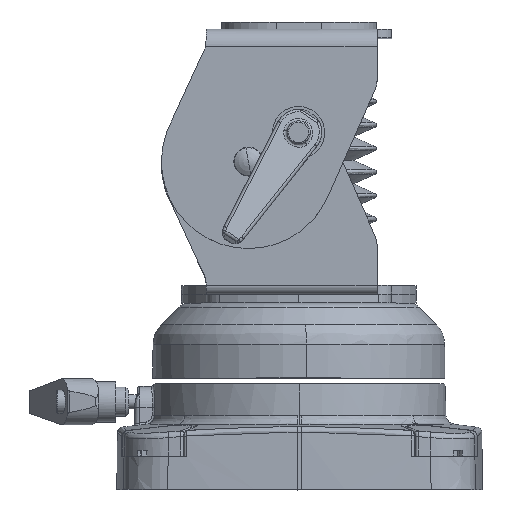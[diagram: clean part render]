
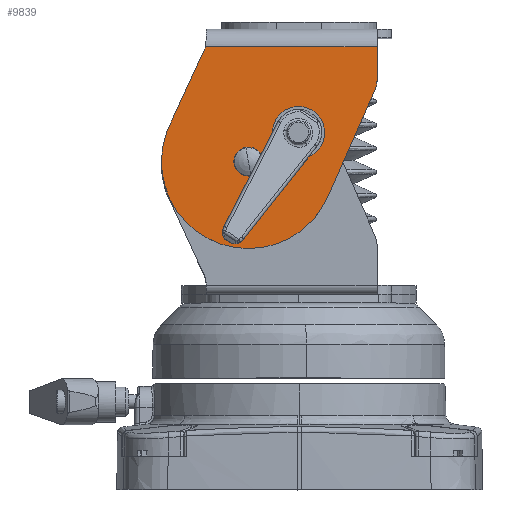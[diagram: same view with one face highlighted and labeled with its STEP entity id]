
A CAD part, top view. The second image highlights one B-rep face of the part: STEP entity #9839.
In plain terms, the highlighted planar face has unit normal (0, 0, 1) as drawn and (1, 0, 0) by its records, which use the part's own axes.
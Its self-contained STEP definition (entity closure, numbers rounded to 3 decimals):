
#251 = CARTESIAN_POINT ( 'NONE',  ( 979.936, 510.484, -42.501 ) ) ;
#953 = VERTEX_POINT ( 'NONE', #98935 ) ;
#4266 = CARTESIAN_POINT ( 'NONE',  ( 979.936, 534.605, -58.093 ) ) ;
#5188 = CARTESIAN_POINT ( 'NONE',  ( 979.936, 504.084, -42.501 ) ) ;
#6599 = VECTOR ( 'NONE', #135289, 1000. ) ;
#6761 = DIRECTION ( 'NONE',  ( 0., -1., 0. ) ) ;
#6844 = VERTEX_POINT ( 'NONE', #156714 ) ;
#8865 = CARTESIAN_POINT ( 'NONE',  ( 979.936, 504.084, -48.901 ) ) ;
#9589 = CIRCLE ( 'NONE', #135044, 30. ) ;
#9696 = EDGE_CURVE ( 'NONE', #9958, #95914, #51576, .T. ) ;
#9789 = ORIENTED_EDGE ( 'NONE', *, *, #98976, .T. ) ;
#9839 = ADVANCED_FACE ( 'NONE', ( #76742, #68846, #17005 ), #125356, .T. ) ;
#9958 = VERTEX_POINT ( 'NONE', #33530 ) ;
#10849 = EDGE_CURVE ( 'NONE', #98887, #137918, #62079, .T. ) ;
#12333 = CARTESIAN_POINT ( 'NONE',  ( 979.936, 524.604, -35.701 ) ) ;
#15429 = VECTOR ( 'NONE', #126143, 1000. ) ;
#15866 = DIRECTION ( 'NONE',  ( 1., 0., 0. ) ) ;
#17005 = FACE_BOUND ( 'NONE', #113630, .T. ) ;
#18639 = DIRECTION ( 'NONE',  ( 0., 0., -1. ) ) ;
#19364 = DIRECTION ( 'NONE',  ( 0., 0., -1. ) ) ;
#20182 = CARTESIAN_POINT ( 'NONE',  ( 979.936, 504.084, -48.901 ) ) ;
#20566 = CARTESIAN_POINT ( 'NONE',  ( 979.936, 510.484, -42.501 ) ) ;
#22421 = VERTEX_POINT ( 'NONE', #8865 ) ;
#23083 = ORIENTED_EDGE ( 'NONE', *, *, #69526, .F. ) ;
#23541 = CARTESIAN_POINT ( 'NONE',  ( 979.936, 491.973, -7.442 ) ) ;
#26808 = EDGE_CURVE ( 'NONE', #6844, #36137, #142770, .T. ) ;
#27520 = CARTESIAN_POINT ( 'NONE',  ( 979.936, 551.033, -20.661 ) ) ;
#27748 = CARTESIAN_POINT ( 'NONE',  ( 979.936, 551.708, 121.501 ) ) ;
#28182 = EDGE_CURVE ( 'NONE', #136501, #106907, #65773, .T. ) ;
#29506 = VECTOR ( 'NONE', #130109, 1000. ) ;
#30833 = LINE ( 'NONE', #91218, #15429 ) ;
#31697 = DIRECTION ( 'NONE',  ( -1., 0., 0. ) ) ;
#33288 = EDGE_CURVE ( 'NONE', #106907, #98887, #44011, .T. ) ;
#33482 = CARTESIAN_POINT ( 'NONE',  ( 979.936, 551.033, -20.661 ) ) ;
#33530 = CARTESIAN_POINT ( 'NONE',  ( 979.936, 491.973, -7.442 ) ) ;
#34533 = EDGE_LOOP ( 'NONE', ( #23083, #113982, #125509, #52141 ) ) ;
#35651 = VECTOR ( 'NONE', #91486, 1000. ) ;
#36070 = ORIENTED_EDGE ( 'NONE', *, *, #33288, .T. ) ;
#36137 = VERTEX_POINT ( 'NONE', #20566 ) ;
#39503 = EDGE_CURVE ( 'NONE', #75738, #22421, #45122, .T. ) ;
#39717 = CIRCLE ( 'NONE', #96521, 8.1 ) ;
#40061 = DIRECTION ( 'NONE',  ( 1., 0., 0. ) ) ;
#44011 = CIRCLE ( 'NONE', #121529, 8. ) ;
#45122 = LINE ( 'NONE', #20182, #35651 ) ;
#46624 = VECTOR ( 'NONE', #6761, 1000. ) ;
#47378 = AXIS2_PLACEMENT_3D ( 'NONE', #91546, #153807, #18639 ) ;
#51576 = LINE ( 'NONE', #23541, #155242 ) ;
#52141 = ORIENTED_EDGE ( 'NONE', *, *, #39503, .F. ) ;
#52530 = VERTEX_POINT ( 'NONE', #81699 ) ;
#52937 = CIRCLE ( 'NONE', #47378, 30. ) ;
#54057 = CARTESIAN_POINT ( 'NONE',  ( 979.936, 504.084, -42.501 ) ) ;
#56358 = EDGE_CURVE ( 'NONE', #953, #52530, #125217, .T. ) ;
#56907 = DIRECTION ( 'NONE',  ( 0., 0.402, 0.916 ) ) ;
#60996 = AXIS2_PLACEMENT_3D ( 'NONE', #27748, #40061, #64173 ) ;
#62079 = LINE ( 'NONE', #142478, #29506 ) ;
#64173 = DIRECTION ( 'NONE',  ( 0., 0., -1. ) ) ;
#65083 = DIRECTION ( 'NONE',  ( 1., 0., 0. ) ) ;
#65773 = LINE ( 'NONE', #27520, #71628 ) ;
#68846 = FACE_BOUND ( 'NONE', #34533, .T. ) ;
#69526 = EDGE_CURVE ( 'NONE', #36137, #75738, #117612, .T. ) ;
#71628 = VECTOR ( 'NONE', #56907, 1000. ) ;
#72385 = EDGE_CURVE ( 'NONE', #124117, #137918, #101955, .T. ) ;
#74071 = ORIENTED_EDGE ( 'NONE', *, *, #28182, .T. ) ;
#75738 = VERTEX_POINT ( 'NONE', #54057 ) ;
#76742 = FACE_OUTER_BOUND ( 'NONE', #126707, .T. ) ;
#78976 = VERTEX_POINT ( 'NONE', #148500 ) ;
#81169 = CARTESIAN_POINT ( 'NONE',  ( 979.936, 479.201, -35.149 ) ) ;
#81699 = CARTESIAN_POINT ( 'NONE',  ( 979.936, 524.604, -43.801 ) ) ;
#82246 = DIRECTION ( 'NONE',  ( 0., 0., -1. ) ) ;
#83915 = ORIENTED_EDGE ( 'NONE', *, *, #10849, .T. ) ;
#88267 = CARTESIAN_POINT ( 'NONE',  ( 979.936, 507.284, -45.701 ) ) ;
#88525 = AXIS2_PLACEMENT_3D ( 'NONE', #142164, #31697, #19364 ) ;
#90412 = VECTOR ( 'NONE', #141492, 1000. ) ;
#91218 = CARTESIAN_POINT ( 'NONE',  ( 979.936, 510.484, -48.901 ) ) ;
#91486 = DIRECTION ( 'NONE',  ( 0., 0., -1. ) ) ;
#91546 = CARTESIAN_POINT ( 'NONE',  ( 979.936, 507.284, -45.701 ) ) ;
#95914 = VERTEX_POINT ( 'NONE', #81169 ) ;
#96472 = EDGE_CURVE ( 'NONE', #52530, #953, #39717, .T. ) ;
#96521 = AXIS2_PLACEMENT_3D ( 'NONE', #102097, #65083, #139104 ) ;
#98887 = VERTEX_POINT ( 'NONE', #99551 ) ;
#98935 = CARTESIAN_POINT ( 'NONE',  ( 979.936, 524.604, -27.601 ) ) ;
#98976 = EDGE_CURVE ( 'NONE', #124117, #9958, #121899, .T. ) ;
#99551 = CARTESIAN_POINT ( 'NONE',  ( 979.936, 551.708, -17.446 ) ) ;
#100258 = CARTESIAN_POINT ( 'NONE',  ( 979.936, 551.708, -6. ) ) ;
#101567 = ORIENTED_EDGE ( 'NONE', *, *, #96472, .F. ) ;
#101955 = LINE ( 'NONE', #100258, #90412 ) ;
#102056 = CARTESIAN_POINT ( 'NONE',  ( 979.936, 492.477, -6. ) ) ;
#102097 = CARTESIAN_POINT ( 'NONE',  ( 979.936, 524.604, -35.701 ) ) ;
#106907 = VERTEX_POINT ( 'NONE', #33482 ) ;
#111621 = AXIS2_PLACEMENT_3D ( 'NONE', #12333, #123338, #150670 ) ;
#113630 = EDGE_LOOP ( 'NONE', ( #101567, #113688 ) ) ;
#113688 = ORIENTED_EDGE ( 'NONE', *, *, #56358, .F. ) ;
#113982 = ORIENTED_EDGE ( 'NONE', *, *, #26808, .F. ) ;
#115284 = EDGE_CURVE ( 'NONE', #95914, #78976, #52937, .T. ) ;
#117612 = LINE ( 'NONE', #5188, #46624 ) ;
#118180 = CARTESIAN_POINT ( 'NONE',  ( 979.936, 551.708, -6. ) ) ;
#119731 = CARTESIAN_POINT ( 'NONE',  ( 979.936, 543.708, -17.446 ) ) ;
#121529 = AXIS2_PLACEMENT_3D ( 'NONE', #119731, #132087, #82246 ) ;
#121899 = CIRCLE ( 'NONE', #88525, 8. ) ;
#123338 = DIRECTION ( 'NONE',  ( 1., 0., 0. ) ) ;
#124117 = VERTEX_POINT ( 'NONE', #102056 ) ;
#125217 = CIRCLE ( 'NONE', #111621, 8.1 ) ;
#125356 = PLANE ( 'NONE',  #60996 ) ;
#125509 = ORIENTED_EDGE ( 'NONE', *, *, #135921, .F. ) ;
#126143 = DIRECTION ( 'NONE',  ( 0., 1., 0. ) ) ;
#126707 = EDGE_LOOP ( 'NONE', ( #146075, #9789, #130631, #145500, #126779, #74071, #36070, #83915 ) ) ;
#126779 = ORIENTED_EDGE ( 'NONE', *, *, #137685, .T. ) ;
#130109 = DIRECTION ( 'NONE',  ( 0., 0., 1. ) ) ;
#130631 = ORIENTED_EDGE ( 'NONE', *, *, #9696, .T. ) ;
#132087 = DIRECTION ( 'NONE',  ( 1., 0., 0. ) ) ;
#133945 = DIRECTION ( 'NONE',  ( 0., -0.419, -0.908 ) ) ;
#135044 = AXIS2_PLACEMENT_3D ( 'NONE', #88267, #15866, #136548 ) ;
#135289 = DIRECTION ( 'NONE',  ( 0., 0., 1. ) ) ;
#135921 = EDGE_CURVE ( 'NONE', #22421, #6844, #30833, .T. ) ;
#136501 = VERTEX_POINT ( 'NONE', #4266 ) ;
#136548 = DIRECTION ( 'NONE',  ( 0., 0., -1. ) ) ;
#137685 = EDGE_CURVE ( 'NONE', #78976, #136501, #9589, .T. ) ;
#137918 = VERTEX_POINT ( 'NONE', #118180 ) ;
#139104 = DIRECTION ( 'NONE',  ( 0., 0., -1. ) ) ;
#141492 = DIRECTION ( 'NONE',  ( 0., 1., 0. ) ) ;
#142164 = CARTESIAN_POINT ( 'NONE',  ( 979.936, 484.708, -4.093 ) ) ;
#142478 = CARTESIAN_POINT ( 'NONE',  ( 979.936, 551.708, -17.446 ) ) ;
#142770 = LINE ( 'NONE', #251, #6599 ) ;
#145500 = ORIENTED_EDGE ( 'NONE', *, *, #115284, .T. ) ;
#146075 = ORIENTED_EDGE ( 'NONE', *, *, #72385, .F. ) ;
#148500 = CARTESIAN_POINT ( 'NONE',  ( 979.936, 507.284, -75.701 ) ) ;
#150670 = DIRECTION ( 'NONE',  ( 0., 0., -1. ) ) ;
#153807 = DIRECTION ( 'NONE',  ( 1., 0., 0. ) ) ;
#155242 = VECTOR ( 'NONE', #133945, 1000. ) ;
#156714 = CARTESIAN_POINT ( 'NONE',  ( 979.936, 510.484, -48.901 ) ) ;
